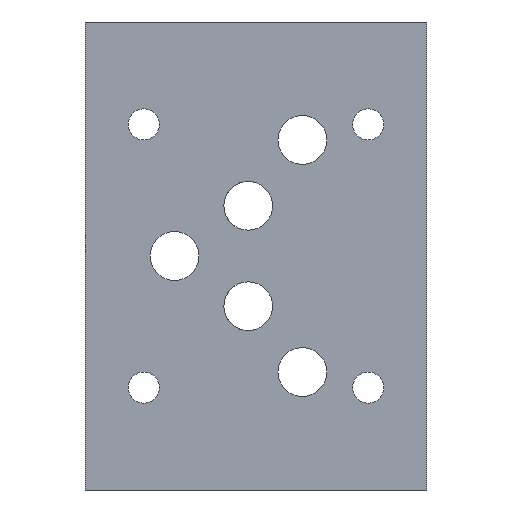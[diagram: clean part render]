
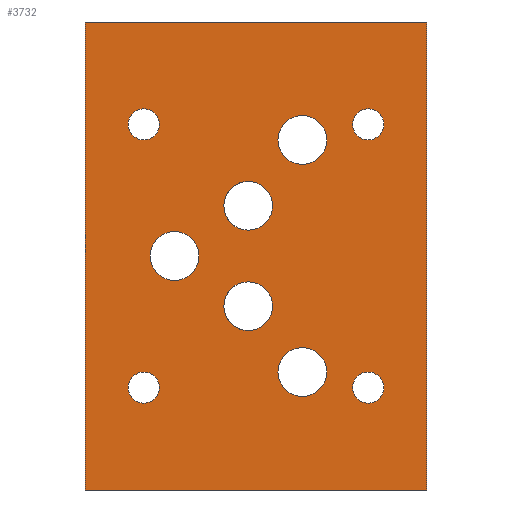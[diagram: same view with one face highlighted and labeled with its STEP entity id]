
A CAD part, left-side view. The second image highlights one B-rep face of the part: STEP entity #3732.
In plain terms, the highlighted planar face has unit normal (-1, 0, 0).
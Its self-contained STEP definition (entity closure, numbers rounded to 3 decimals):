
#171=DIRECTION('',(0.,0.,-1.));
#172=VECTOR('',#171,96.);
#173=CARTESIAN_POINT('',(0.,0.,0.));
#174=LINE('',#173,#172);
#178=DIRECTION('',(0.,1.,0.));
#179=VECTOR('',#178,70.);
#180=CARTESIAN_POINT('',(0.,0.,-96.));
#181=LINE('',#180,#179);
#185=DIRECTION('',(0.,0.,1.));
#186=VECTOR('',#185,96.);
#187=CARTESIAN_POINT('',(0.,70.,-96.));
#188=LINE('',#187,#186);
#192=DIRECTION('',(0.,-1.,0.));
#193=VECTOR('',#192,70.);
#194=CARTESIAN_POINT('',(0.,70.,0.));
#195=LINE('',#194,#193);
#199=CARTESIAN_POINT('',(0.,58.,-21.));
#200=DIRECTION('',(1.,0.,0.));
#201=DIRECTION('',(0.,1.,0.));
#202=AXIS2_PLACEMENT_3D('',#199,#200,#201);
#207=CARTESIAN_POINT('',(0.,58.,-21.));
#208=DIRECTION('',(1.,0.,0.));
#209=DIRECTION('',(0.,-1.,0.));
#210=AXIS2_PLACEMENT_3D('',#207,#208,#209);
#215=CARTESIAN_POINT('',(0.,12.,-21.));
#216=DIRECTION('',(1.,0.,0.));
#217=DIRECTION('',(0.,1.,0.));
#218=AXIS2_PLACEMENT_3D('',#215,#216,#217);
#223=CARTESIAN_POINT('',(0.,12.,-21.));
#224=DIRECTION('',(1.,0.,0.));
#225=DIRECTION('',(0.,-1.,0.));
#226=AXIS2_PLACEMENT_3D('',#223,#224,#225);
#231=CARTESIAN_POINT('',(0.,12.,-75.));
#232=DIRECTION('',(1.,0.,0.));
#233=DIRECTION('',(0.,1.,0.));
#234=AXIS2_PLACEMENT_3D('',#231,#232,#233);
#239=CARTESIAN_POINT('',(0.,12.,-75.));
#240=DIRECTION('',(1.,0.,0.));
#241=DIRECTION('',(0.,-1.,0.));
#242=AXIS2_PLACEMENT_3D('',#239,#240,#241);
#247=CARTESIAN_POINT('',(0.,58.,-75.));
#248=DIRECTION('',(1.,0.,0.));
#249=DIRECTION('',(0.,1.,0.));
#250=AXIS2_PLACEMENT_3D('',#247,#248,#249);
#255=CARTESIAN_POINT('',(0.,58.,-75.));
#256=DIRECTION('',(1.,0.,0.));
#257=DIRECTION('',(0.,-1.,0.));
#258=AXIS2_PLACEMENT_3D('',#255,#256,#257);
#263=CARTESIAN_POINT('',(0.,25.5,-24.2));
#264=DIRECTION('',(1.,0.,0.));
#265=DIRECTION('',(0.,1.,0.));
#266=AXIS2_PLACEMENT_3D('',#263,#264,#265);
#271=CARTESIAN_POINT('',(0.,25.5,-24.2));
#272=DIRECTION('',(1.,0.,0.));
#273=DIRECTION('',(0.,-1.,0.));
#274=AXIS2_PLACEMENT_3D('',#271,#272,#273);
#279=CARTESIAN_POINT('',(0.,36.6,-37.7));
#280=DIRECTION('',(1.,0.,0.));
#281=DIRECTION('',(0.,1.,0.));
#282=AXIS2_PLACEMENT_3D('',#279,#280,#281);
#287=CARTESIAN_POINT('',(0.,36.6,-37.7));
#288=DIRECTION('',(1.,0.,0.));
#289=DIRECTION('',(0.,-1.,0.));
#290=AXIS2_PLACEMENT_3D('',#287,#288,#289);
#295=CARTESIAN_POINT('',(0.,51.7,-48.));
#296=DIRECTION('',(1.,0.,0.));
#297=DIRECTION('',(0.,1.,0.));
#298=AXIS2_PLACEMENT_3D('',#295,#296,#297);
#303=CARTESIAN_POINT('',(0.,51.7,-48.));
#304=DIRECTION('',(1.,0.,0.));
#305=DIRECTION('',(0.,-1.,0.));
#306=AXIS2_PLACEMENT_3D('',#303,#304,#305);
#311=CARTESIAN_POINT('',(0.,36.6,-58.3));
#312=DIRECTION('',(1.,0.,0.));
#313=DIRECTION('',(0.,1.,0.));
#314=AXIS2_PLACEMENT_3D('',#311,#312,#313);
#319=CARTESIAN_POINT('',(0.,36.6,-58.3));
#320=DIRECTION('',(1.,0.,0.));
#321=DIRECTION('',(0.,-1.,0.));
#322=AXIS2_PLACEMENT_3D('',#319,#320,#321);
#327=CARTESIAN_POINT('',(0.,25.5,-71.8));
#328=DIRECTION('',(1.,0.,0.));
#329=DIRECTION('',(0.,1.,0.));
#330=AXIS2_PLACEMENT_3D('',#327,#328,#329);
#335=CARTESIAN_POINT('',(0.,25.5,-71.8));
#336=DIRECTION('',(1.,0.,0.));
#337=DIRECTION('',(0.,-1.,0.));
#338=AXIS2_PLACEMENT_3D('',#335,#336,#337);
#3179=CARTESIAN_POINT('',(0.,0.,0.));
#3180=CARTESIAN_POINT('',(0.,0.,-96.));
#3181=VERTEX_POINT('',#3179);
#3182=VERTEX_POINT('',#3180);
#3183=CARTESIAN_POINT('',(0.,70.,-96.));
#3184=VERTEX_POINT('',#3183);
#3185=CARTESIAN_POINT('',(0.,70.,0.));
#3186=VERTEX_POINT('',#3185);
#3195=CARTESIAN_POINT('',(0.,61.2,-21.));
#3196=CARTESIAN_POINT('',(0.,54.8,-21.));
#3197=VERTEX_POINT('',#3195);
#3198=VERTEX_POINT('',#3196);
#3203=CARTESIAN_POINT('',(0.,15.2,-21.));
#3204=CARTESIAN_POINT('',(0.,8.8,-21.));
#3205=VERTEX_POINT('',#3203);
#3206=VERTEX_POINT('',#3204);
#3211=CARTESIAN_POINT('',(0.,15.2,-75.));
#3212=CARTESIAN_POINT('',(0.,8.8,-75.));
#3213=VERTEX_POINT('',#3211);
#3214=VERTEX_POINT('',#3212);
#3219=CARTESIAN_POINT('',(0.,61.2,-75.));
#3220=CARTESIAN_POINT('',(0.,54.8,-75.));
#3221=VERTEX_POINT('',#3219);
#3222=VERTEX_POINT('',#3220);
#3227=CARTESIAN_POINT('',(0.,30.5,-24.2));
#3228=CARTESIAN_POINT('',(0.,20.5,-24.2));
#3229=VERTEX_POINT('',#3227);
#3230=VERTEX_POINT('',#3228);
#3231=CARTESIAN_POINT('',(0.,41.6,-37.7));
#3232=CARTESIAN_POINT('',(0.,31.6,-37.7));
#3233=VERTEX_POINT('',#3231);
#3234=VERTEX_POINT('',#3232);
#3235=CARTESIAN_POINT('',(0.,56.7,-48.));
#3236=CARTESIAN_POINT('',(0.,46.7,-48.));
#3237=VERTEX_POINT('',#3235);
#3238=VERTEX_POINT('',#3236);
#3239=CARTESIAN_POINT('',(0.,41.6,-58.3));
#3240=CARTESIAN_POINT('',(0.,31.6,-58.3));
#3241=VERTEX_POINT('',#3239);
#3242=VERTEX_POINT('',#3240);
#3243=CARTESIAN_POINT('',(0.,30.5,-71.8));
#3244=CARTESIAN_POINT('',(0.,20.5,-71.8));
#3245=VERTEX_POINT('',#3243);
#3246=VERTEX_POINT('',#3244);
#3663=CARTESIAN_POINT('',(0.,0.,0.));
#3664=DIRECTION('',(1.,0.,0.));
#3665=DIRECTION('',(0.,0.,-1.));
#3666=AXIS2_PLACEMENT_3D('',#3663,#3664,#3665);
#3667=PLANE('',#3666);
#3669=ORIENTED_EDGE('',*,*,#3668,.T.);
#3671=ORIENTED_EDGE('',*,*,#3670,.T.);
#3673=ORIENTED_EDGE('',*,*,#3672,.T.);
#3675=ORIENTED_EDGE('',*,*,#3674,.T.);
#3676=EDGE_LOOP('',(#3669,#3671,#3673,#3675));
#3677=FACE_OUTER_BOUND('',#3676,.F.);
#3679=ORIENTED_EDGE('',*,*,#3678,.F.);
#3681=ORIENTED_EDGE('',*,*,#3680,.F.);
#3682=EDGE_LOOP('',(#3679,#3681));
#3683=FACE_BOUND('',#3682,.F.);
#3685=ORIENTED_EDGE('',*,*,#3684,.F.);
#3687=ORIENTED_EDGE('',*,*,#3686,.F.);
#3688=EDGE_LOOP('',(#3685,#3687));
#3689=FACE_BOUND('',#3688,.F.);
#3691=ORIENTED_EDGE('',*,*,#3690,.F.);
#3693=ORIENTED_EDGE('',*,*,#3692,.F.);
#3694=EDGE_LOOP('',(#3691,#3693));
#3695=FACE_BOUND('',#3694,.F.);
#3697=ORIENTED_EDGE('',*,*,#3696,.F.);
#3699=ORIENTED_EDGE('',*,*,#3698,.F.);
#3700=EDGE_LOOP('',(#3697,#3699));
#3701=FACE_BOUND('',#3700,.F.);
#3703=ORIENTED_EDGE('',*,*,#3702,.F.);
#3705=ORIENTED_EDGE('',*,*,#3704,.F.);
#3706=EDGE_LOOP('',(#3703,#3705));
#3707=FACE_BOUND('',#3706,.F.);
#3709=ORIENTED_EDGE('',*,*,#3708,.F.);
#3711=ORIENTED_EDGE('',*,*,#3710,.F.);
#3712=EDGE_LOOP('',(#3709,#3711));
#3713=FACE_BOUND('',#3712,.F.);
#3715=ORIENTED_EDGE('',*,*,#3714,.F.);
#3717=ORIENTED_EDGE('',*,*,#3716,.F.);
#3718=EDGE_LOOP('',(#3715,#3717));
#3719=FACE_BOUND('',#3718,.F.);
#3721=ORIENTED_EDGE('',*,*,#3720,.F.);
#3723=ORIENTED_EDGE('',*,*,#3722,.F.);
#3724=EDGE_LOOP('',(#3721,#3723));
#3725=FACE_BOUND('',#3724,.F.);
#3727=ORIENTED_EDGE('',*,*,#3726,.F.);
#3729=ORIENTED_EDGE('',*,*,#3728,.F.);
#3730=EDGE_LOOP('',(#3727,#3729));
#3731=FACE_BOUND('',#3730,.F.);
#203=CIRCLE('',#202,3.2);
#211=CIRCLE('',#210,3.2);
#219=CIRCLE('',#218,3.2);
#227=CIRCLE('',#226,3.2);
#235=CIRCLE('',#234,3.2);
#243=CIRCLE('',#242,3.2);
#251=CIRCLE('',#250,3.2);
#259=CIRCLE('',#258,3.2);
#267=CIRCLE('',#266,5.);
#275=CIRCLE('',#274,5.);
#283=CIRCLE('',#282,5.);
#291=CIRCLE('',#290,5.);
#299=CIRCLE('',#298,5.);
#307=CIRCLE('',#306,5.);
#315=CIRCLE('',#314,5.);
#323=CIRCLE('',#322,5.);
#331=CIRCLE('',#330,5.);
#339=CIRCLE('',#338,5.);
#3668=EDGE_CURVE('',#3181,#3182,#174,.T.);
#3670=EDGE_CURVE('',#3182,#3184,#181,.T.);
#3672=EDGE_CURVE('',#3184,#3186,#188,.T.);
#3674=EDGE_CURVE('',#3186,#3181,#195,.T.);
#3678=EDGE_CURVE('',#3197,#3198,#203,.T.);
#3680=EDGE_CURVE('',#3198,#3197,#211,.T.);
#3684=EDGE_CURVE('',#3205,#3206,#219,.T.);
#3686=EDGE_CURVE('',#3206,#3205,#227,.T.);
#3690=EDGE_CURVE('',#3213,#3214,#235,.T.);
#3692=EDGE_CURVE('',#3214,#3213,#243,.T.);
#3696=EDGE_CURVE('',#3221,#3222,#251,.T.);
#3698=EDGE_CURVE('',#3222,#3221,#259,.T.);
#3702=EDGE_CURVE('',#3229,#3230,#267,.T.);
#3704=EDGE_CURVE('',#3230,#3229,#275,.T.);
#3708=EDGE_CURVE('',#3233,#3234,#283,.T.);
#3710=EDGE_CURVE('',#3234,#3233,#291,.T.);
#3714=EDGE_CURVE('',#3237,#3238,#299,.T.);
#3716=EDGE_CURVE('',#3238,#3237,#307,.T.);
#3720=EDGE_CURVE('',#3241,#3242,#315,.T.);
#3722=EDGE_CURVE('',#3242,#3241,#323,.T.);
#3726=EDGE_CURVE('',#3245,#3246,#331,.T.);
#3728=EDGE_CURVE('',#3246,#3245,#339,.T.);
#3732=ADVANCED_FACE('',(#3677,#3683,#3689,#3695,#3701,#3707,#3713,#3719,#3725,
#3731),#3667,.F.);
